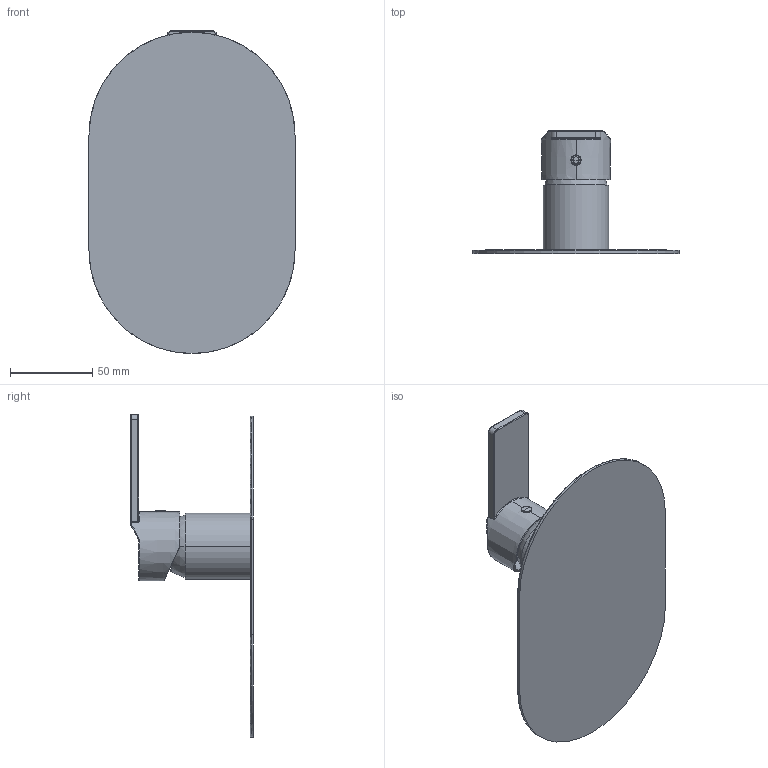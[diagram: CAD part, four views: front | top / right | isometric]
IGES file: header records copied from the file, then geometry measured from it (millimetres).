
Start section:  PTC IGES file: 47511.igs
Global section: file name: 47511.igs; native system: Creo Parametric by PTC Inc.; preprocessor: 2022014; author: carloff; organization: Unknown; date: 20241212.154011; units: millimetre
Bounding box: 125 x 74.6 x 196 mm (x, y, z)
Surface area: 63713.6 mm2 (no closed solid volume)
Topology: 0 solids, 0 shells, 215 faces, 1120 edges, 1116 vertices
Faces by surface type: revolution 113, bspline 102
